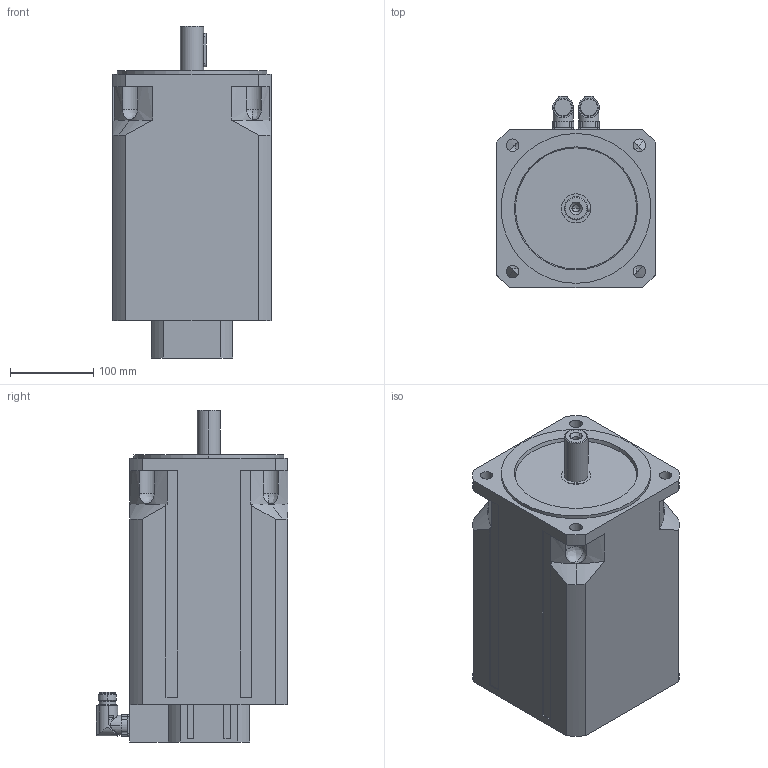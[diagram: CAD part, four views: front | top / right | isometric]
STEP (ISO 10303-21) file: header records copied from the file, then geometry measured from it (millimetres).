
FILE_DESCRIPTION(('STEP AP203'),'2;1');
FILE_NAME('MT7-4000_B.stp','2006-08-28T20:29:33',(''),(''),'2005.2.102','THINKDESIGN','');
FILE_SCHEMA(('CONFIG_CONTROL_DESIGN'));
Length unit declared in the file: millimetre
Bounding box: 190 x 230.5 x 399 mm (x, y, z)
Volume: 10989638.1 mm3; surface area: 347313.8 mm2
Topology: 3 solids, 3 shells, 275 faces, 749 edges, 481 vertices
Faces by surface type: cylinder 120, plane 107, bspline 48
Full cylindrical faces by diameter (mm): 20 x2
Entity records: 9842 total; most frequent: CARTESIAN_POINT 2891, ORIENTED_EDGE 1478, DIRECTION 1427, EDGE_CURVE 739, AXIS2_PLACEMENT_3D 539, VERTEX_POINT 481, VECTOR 349, LINE 349
